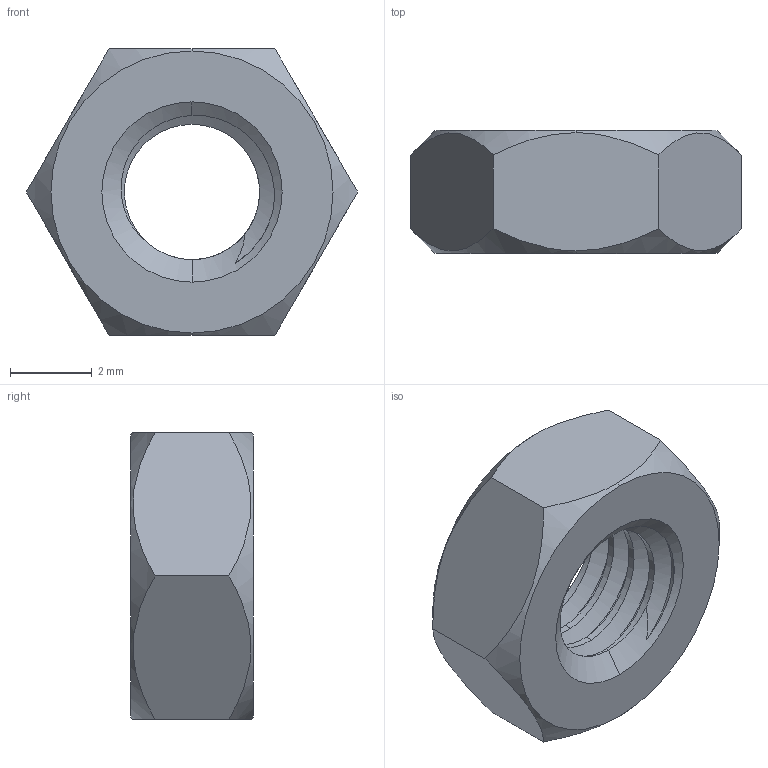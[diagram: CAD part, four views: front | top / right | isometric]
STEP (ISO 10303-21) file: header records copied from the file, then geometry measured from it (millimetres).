
FILE_DESCRIPTION (( 'STEP AP203' ), '1' );
FILE_NAME ('TAN-304RN-M4.STEP', '2026-08-20T13:35:04', ( '' ), ( '' ), 'SwSTEP 2.0', 'SolidWorks 2020', '' );
FILE_SCHEMA (( 'CONFIG_CONTROL_DESIGN' ));
Length unit declared in the file: millimetre
Products named in the file (1): TAN-304RN-M4
Bounding box: 8.08 x 3 x 7 mm (x, y, z)
Volume: 92.9 mm3; surface area: 177.9 mm2
Topology: 1 solids, 1 shells, 27 faces, 74 edges, 49 vertices
Faces by surface type: cone 8, cylinder 8, plane 8, bspline 3
Entity records: 1981 total; most frequent: CARTESIAN_POINT 1313, ORIENTED_EDGE 148, DIRECTION 93, EDGE_CURVE 74, VERTEX_POINT 49, AXIS2_PLACEMENT_3D 36, EDGE_LOOP 29, ADVANCED_FACE 27
